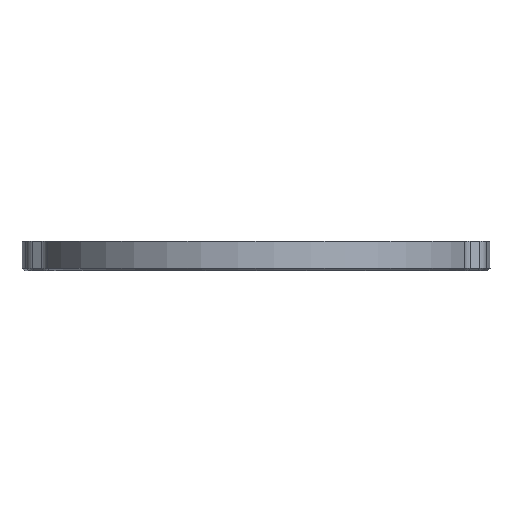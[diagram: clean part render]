
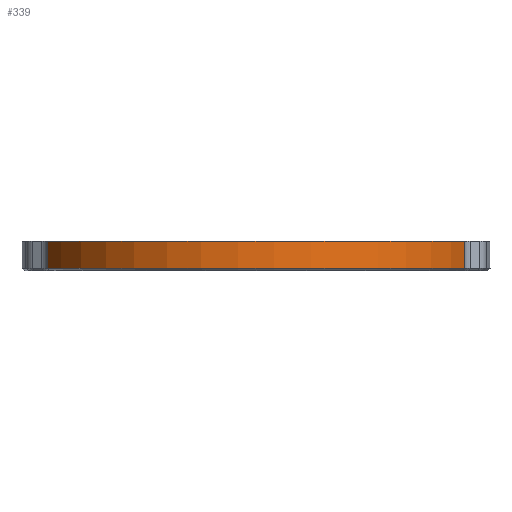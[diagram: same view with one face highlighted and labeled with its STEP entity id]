
A CAD part, front view. The second image highlights one B-rep face of the part: STEP entity #339.
In plain terms, the highlighted cylindrical face has radius 44.45 mm (diameter 88.9 mm), a partial arc.
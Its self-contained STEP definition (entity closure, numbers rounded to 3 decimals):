
#19 = VECTOR ( 'NONE', #1501, 1000. ) ;
#21 = CARTESIAN_POINT ( 'NONE',  ( -42.351, -13.497, 6. ) ) ;
#59 = CARTESIAN_POINT ( 'NONE',  ( 0., 0., 6. ) ) ;
#73 = DIRECTION ( 'NONE',  ( 1., 0., 0. ) ) ;
#110 = CARTESIAN_POINT ( 'NONE',  ( -42.351, -13.497, 0.5 ) ) ;
#152 = EDGE_LOOP ( 'NONE', ( #642, #1482, #1277, #420 ) ) ;
#178 = CARTESIAN_POINT ( 'NONE',  ( 0., 0., 0.5 ) ) ;
#214 = CARTESIAN_POINT ( 'NONE',  ( 42.351, -13.497, 0.5 ) ) ;
#229 = AXIS2_PLACEMENT_3D ( 'NONE', #59, #462, #73 ) ;
#243 = VECTOR ( 'NONE', #337, 1000. ) ;
#262 = EDGE_CURVE ( 'NONE', #1177, #1502, #1481, .T. ) ;
#310 = LINE ( 'NONE', #1376, #19 ) ;
#317 = FACE_OUTER_BOUND ( 'NONE', #152, .T. ) ;
#337 = DIRECTION ( 'NONE',  ( 0., 0., -1. ) ) ;
#339 = ADVANCED_FACE ( 'NONE', ( #317 ), #636, .T. ) ;
#348 = AXIS2_PLACEMENT_3D ( 'NONE', #1198, #711, #1413 ) ;
#413 = AXIS2_PLACEMENT_3D ( 'NONE', #178, #535, #1008 ) ;
#420 = ORIENTED_EDGE ( 'NONE', *, *, #741, .F. ) ;
#462 = DIRECTION ( 'NONE',  ( 0., 0., 1. ) ) ;
#535 = DIRECTION ( 'NONE',  ( 0., 0., 1. ) ) ;
#547 = CARTESIAN_POINT ( 'NONE',  ( 42.351, -13.497, 6. ) ) ;
#578 = EDGE_CURVE ( 'NONE', #1502, #912, #1290, .T. ) ;
#595 = CARTESIAN_POINT ( 'NONE',  ( -42.351, -13.497, 6. ) ) ;
#636 = CYLINDRICAL_SURFACE ( 'NONE', #348, 44.45 ) ;
#642 = ORIENTED_EDGE ( 'NONE', *, *, #262, .T. ) ;
#711 = DIRECTION ( 'NONE',  ( 0., 0., -1. ) ) ;
#732 = VERTEX_POINT ( 'NONE', #547 ) ;
#741 = EDGE_CURVE ( 'NONE', #1177, #732, #1464, .T. ) ;
#912 = VERTEX_POINT ( 'NONE', #214 ) ;
#1008 = DIRECTION ( 'NONE',  ( -1., 0., 0. ) ) ;
#1177 = VERTEX_POINT ( 'NONE', #21 ) ;
#1198 = CARTESIAN_POINT ( 'NONE',  ( 0., 0., 6. ) ) ;
#1277 = ORIENTED_EDGE ( 'NONE', *, *, #1373, .T. ) ;
#1290 = CIRCLE ( 'NONE', #413, 44.45 ) ;
#1373 = EDGE_CURVE ( 'NONE', #912, #732, #310, .T. ) ;
#1376 = CARTESIAN_POINT ( 'NONE',  ( 42.351, -13.497, 6. ) ) ;
#1413 = DIRECTION ( 'NONE',  ( -1., 0., 0. ) ) ;
#1464 = CIRCLE ( 'NONE', #229, 44.45 ) ;
#1481 = LINE ( 'NONE', #595, #243 ) ;
#1482 = ORIENTED_EDGE ( 'NONE', *, *, #578, .T. ) ;
#1501 = DIRECTION ( 'NONE',  ( 0., 0., 1. ) ) ;
#1502 = VERTEX_POINT ( 'NONE', #110 ) ;
